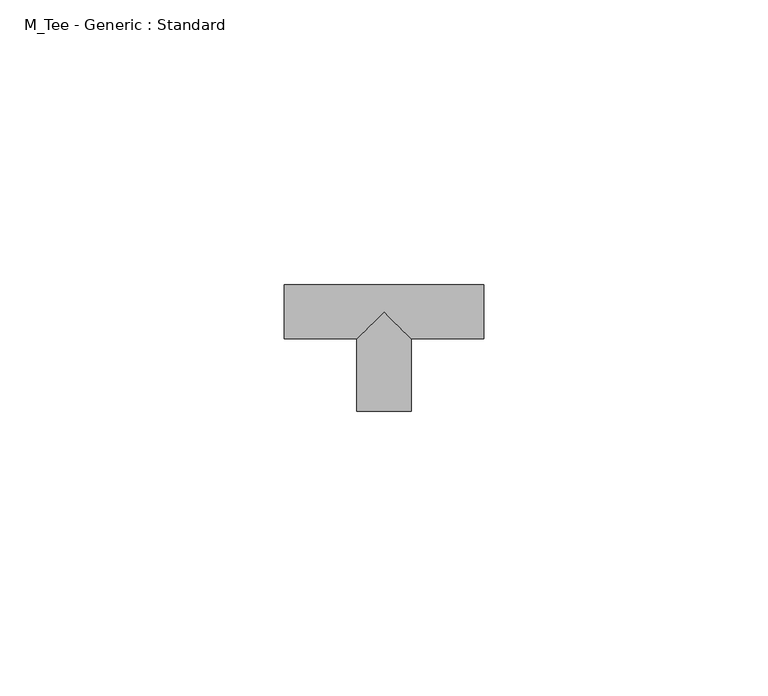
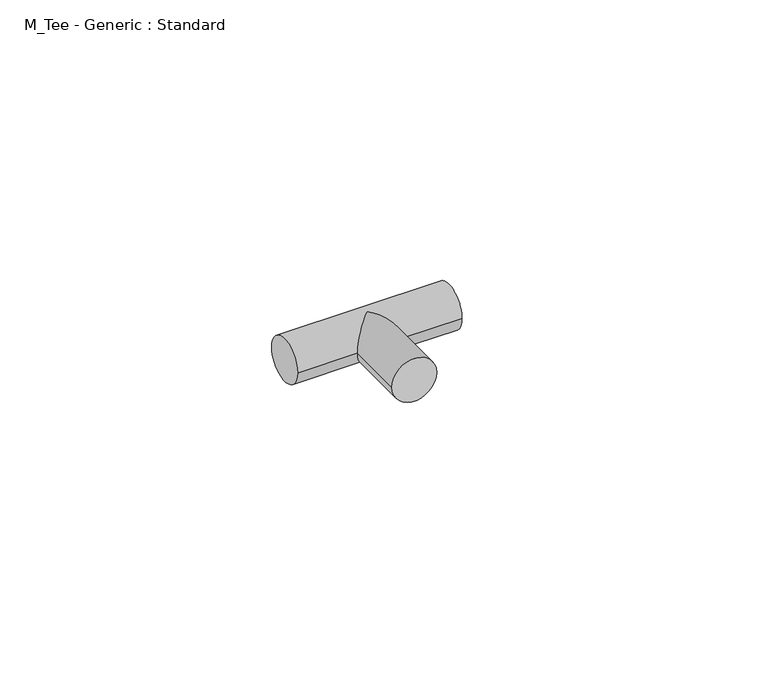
"""IFC4 building model written with IfcOpenShell, lengths in millimetres: pipe fitting geometry, M_Tee - Generic : Standard."""

from ifc_helpers import new_model, si_unit, frame, origin, place, context, project, spatial, circle_curve, ellipse_curve, source, transform, mapped, element, save
from ifc_brep_helpers import plane_surface, cylinder_surface, advanced_brep


def m_tee_generic_standard_25a94648(model_context):
    return source(origin(), model_context, "Body", "AdvancedBrep", [
        advanced_brep(
        [(-17.4875, -4.7875, 0.0), (-17.4875, 4.7875, 0.0), (17.4875, -4.7875, 0.0), (17.4875, 4.7875, 0.0), (-4.7875, -4.7875, 0.0), (0.0, 0.0, 4.7875), (4.7875, -4.7875, 0.0), (0.0, 0.0, -4.7875), (-4.7875, -17.4875, 0.0), (4.7875, -17.4875, 0.0)],
        [
            (0, 1, circle_curve(frame((-17.4875, 0.0, 0.0), z_axis=(-1.0, 0.0, 0.0), x_axis=(0.0, 1.0, 0.0)), 4.7875)),
            (1, 0, circle_curve(frame((-17.4875, 0.0, 0.0), z_axis=(-1.0, 0.0, 0.0), x_axis=(0.0, 1.0, 0.0)), 4.7875)),
            (2, 3, circle_curve(frame((17.4875, 0.0, 0.0), z_axis=(1.0, 0.0, 0.0), x_axis=(0.0, 1.0, 0.0)), 4.7875)),
            (3, 2, circle_curve(frame((17.4875, 0.0, 0.0), z_axis=(1.0, 0.0, 0.0), x_axis=(0.0, 1.0, 0.0)), 4.7875)),
            (0, 4),
            (4, 5, ellipse_curve(frame((0.0, 0.0, 0.0), z_axis=(-0.707106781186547, 0.7071067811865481, 0.0), x_axis=(-0.707106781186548, -0.707106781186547, 0.0)), 6.7705474, 4.7875)),
            (5, 6, ellipse_curve(frame((0.0, 0.0, 0.0), z_axis=(0.707106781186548, 0.7071067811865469, 0.0), x_axis=(-0.707106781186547, 0.707106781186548, 0.0)), 6.7705474, 4.7875)),
            (6, 2),
            (3, 1),
            (6, 7, ellipse_curve(frame((0.0, 0.0, 0.0), z_axis=(0.707106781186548, 0.7071067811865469, 0.0), x_axis=(-0.707106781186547, 0.707106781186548, 0.0)), 6.7705474, 4.7875)),
            (7, 4, ellipse_curve(frame((0.0, 0.0, 0.0), z_axis=(-0.707106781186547, 0.7071067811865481, 0.0), x_axis=(-0.707106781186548, -0.707106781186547, 0.0)), 6.7705474, 4.7875)),
            (8, 9, circle_curve(frame((0.0, -17.4875, 0.0), z_axis=(0.0, -1.0, 0.0), x_axis=(1.0, 0.0, 0.0)), 4.7875)),
            (9, 8, circle_curve(frame((0.0, -17.4875, 0.0), z_axis=(0.0, -1.0, 0.0), x_axis=(1.0, 0.0, 0.0)), 4.7875)),
            (9, 6),
            (4, 8),
        ],
        [
            plane_surface(frame((-17.4875, 0.0, 0.0), z_axis=(-1.0, 0.0, 0.0), x_axis=(0.0, 0.0, 1.0))),
            plane_surface(frame((17.4875, 0.0, 0.0), z_axis=(1.0, 0.0, 0.0), x_axis=(0.0, 0.0, 1.0))),
            cylinder_surface(frame((-17.4875, 0.0, 0.0), z_axis=(-1.0, 0.0, 0.0), x_axis=(0.0, 1.0, 0.0)), 4.7875),
            plane_surface(frame((0.0, -17.4875, 0.0), z_axis=(0.0, -1.0, 0.0), x_axis=(0.0, 0.0, 1.0))),
            cylinder_surface(frame((0.0, 0.0, 0.0), z_axis=(0.0, 1.0, 0.0), x_axis=(1.0, 0.0, 0.0)), 4.7875),
        ],
        [
            (0, [[1, 2]]),
            (1, [[3, 4]]),
            (2, [[-1, 5, 6, 7, 8, -4, 9]]),
            (2, [[-2, -9, -3, -8, 10, 11, -5]]),
            (3, [[12, 13]]),
            (4, [[-13, 14, -7, -6, 15]]),
            (4, [[-12, -15, -11, -10, -14]]),
        ],
    ),
    ])


if __name__ == "__main__":
    model = new_model("IFC4")
    model_context = context("Model", 3, world=origin())
    ifc_project = project(units=[si_unit("LENGTHUNIT", "METRE", prefix="MILLI")], contexts=[model_context])
    site = spatial("IfcSite", under=ifc_project)
    building = spatial("IfcBuilding", under=site)
    placement = place(None, origin())
    m_tee_generic_standard_shape = m_tee_generic_standard_25a94648(model_context)
    element("IfcPipeFitting", 1, ObjectType="M_Tee - Generic : Standard", at=placement, inside=building, context=model_context, shape_type="MappedRepresentation", body=[
        mapped(m_tee_generic_standard_shape, transform((0.0, 0.0, 0.0), x_axis=(1.0, 0.0, 0.0), y_axis=(0.0, 1.0, 0.0), z_axis=(0.0, 0.0, 1.0))),
    ])
    save(model, "model.ifc")
